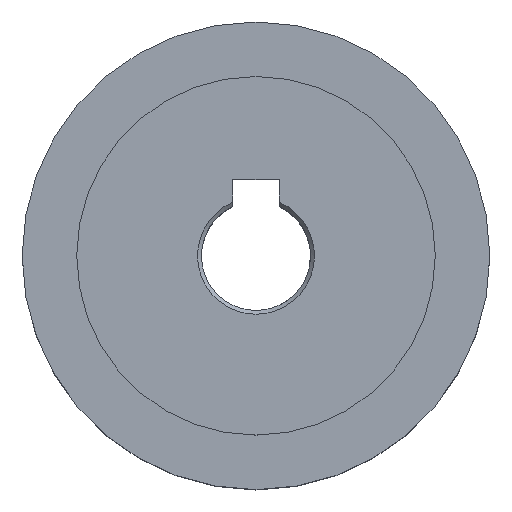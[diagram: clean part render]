
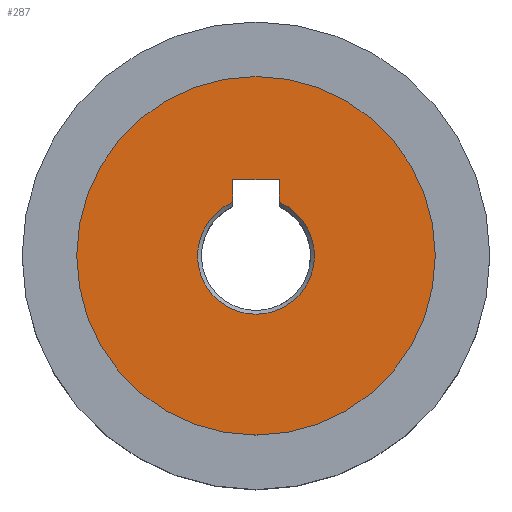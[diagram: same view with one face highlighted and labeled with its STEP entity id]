
A CAD part, top view. The second image highlights one B-rep face of the part: STEP entity #287.
In plain terms, the highlighted planar face has unit normal (0, 0, 1).
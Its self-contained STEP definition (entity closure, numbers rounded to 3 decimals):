
#287=ADVANCED_FACE('',(#3141,#3143),#3145,.T.);
#3141=FACE_BOUND('',#3142,.T.);
#3142=EDGE_LOOP('',(#5935));
#3143=FACE_BOUND('',#3144,.T.);
#3144=EDGE_LOOP('',(#5936,#5937,#5938,#5939));
#3145=PLANE('',#3146);
#3146=AXIS2_PLACEMENT_3D('',#3147,#3148,#3149);
#3147=CARTESIAN_POINT('',(0.,0.,13.5));
#3148=DIRECTION('',(0.,0.,1.));
#3149=DIRECTION('',(1.,0.,0.));
#5935=ORIENTED_EDGE('',*,*,#7757,.T.);
#5936=ORIENTED_EDGE('',*,*,#7183,.T.);
#5937=ORIENTED_EDGE('',*,*,#7194,.T.);
#5938=ORIENTED_EDGE('',*,*,#7758,.T.);
#5939=ORIENTED_EDGE('',*,*,#7186,.T.);
#7183=EDGE_CURVE('',#8169,#8170,#8171,.T.);
#7186=EDGE_CURVE('',#8174,#8169,#8175,.F.);
#7194=EDGE_CURVE('',#8170,#8186,#8188,.F.);
#7757=EDGE_CURVE('',#9309,#9309,#9310,.T.);
#7758=EDGE_CURVE('',#8186,#8174,#9311,.F.);
#8169=VERTEX_POINT('',#10130);
#8170=VERTEX_POINT('',#10131);
#8171=CIRCLE('',#10132,7.5);
#8174=VERTEX_POINT('',#10152);
#8175=LINE('',#10153,#10154);
#8186=VERTEX_POINT('',#10189);
#8188=LINE('',#10193,#10194);
#9309=VERTEX_POINT('',#12790);
#9310=CIRCLE('',#12791,23.);
#9311=LINE('',#12795,#12796);
#10130=CARTESIAN_POINT('',(3.,6.874,13.5));
#10131=CARTESIAN_POINT('',(-3.,6.874,13.5));
#10132=AXIS2_PLACEMENT_3D('',#10133,#10134,#10135);
#10133=CARTESIAN_POINT('',(0.,0.,13.5));
#10134=DIRECTION('',(0.,0.,-1.));
#10135=DIRECTION('',(0.4,0.917,0.));
#10152=CARTESIAN_POINT('',(3.,9.797,13.5));
#10153=CARTESIAN_POINT('',(3.,6.874,13.5));
#10154=VECTOR('',#10155,1.);
#10155=DIRECTION('',(0.,1.,0.));
#10189=CARTESIAN_POINT('',(-3.,9.797,13.5));
#10193=CARTESIAN_POINT('',(-3.,9.797,13.5));
#10194=VECTOR('',#10195,1.);
#10195=DIRECTION('',(0.,-1.,0.));
#12790=CARTESIAN_POINT('',(23.,0.,13.5));
#12791=AXIS2_PLACEMENT_3D('',#12792,#12793,#12794);
#12792=CARTESIAN_POINT('',(0.,0.,13.5));
#12793=DIRECTION('',(0.,0.,1.));
#12794=DIRECTION('',(1.,0.,0.));
#12795=CARTESIAN_POINT('',(3.,9.797,13.5));
#12796=VECTOR('',#12797,1.);
#12797=DIRECTION('',(-1.,0.,0.));
